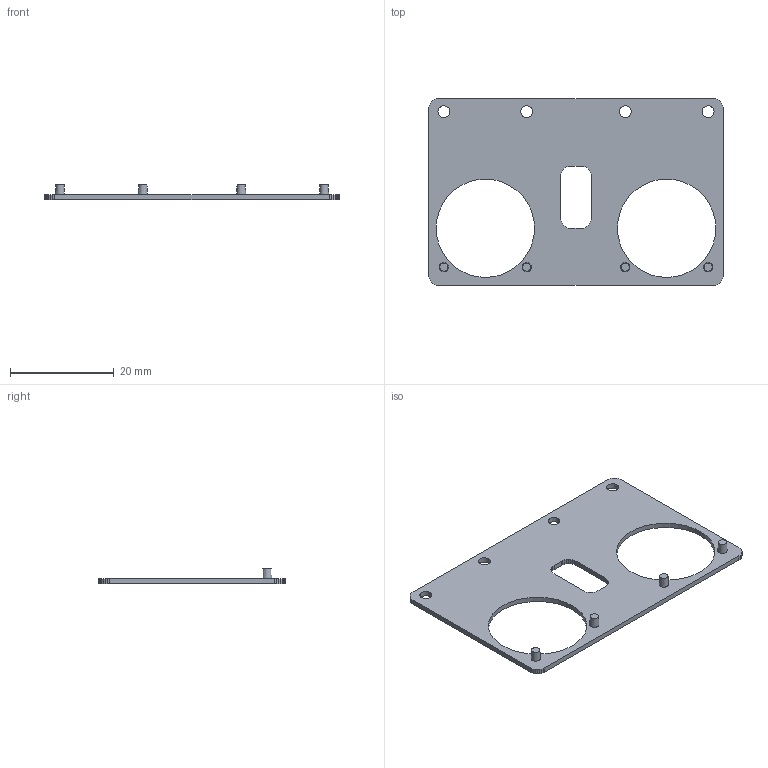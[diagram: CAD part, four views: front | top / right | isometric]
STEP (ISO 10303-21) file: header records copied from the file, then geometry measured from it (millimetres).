
FILE_DESCRIPTION(('FreeCAD Model'),'2;1');
FILE_NAME('Open CASCADE Shape Model','2026-09-09T20:58:31',('Author'),( ''),'Open CASCADE STEP processor 7.8','FreeCAD','Unknown');
FILE_SCHEMA(('AUTOMOTIVE_DESIGN { 1 0 10303 214 1 1 1 1 }'));
Length unit declared in the file: millimetre
Products named in the file (1): microduck-trunk-base
Bounding box: 57 x 36 x 3 mm (x, y, z)
Volume: 1414.4 mm3; surface area: 3196.4 mm2
Topology: 1 solids, 1 shells, 88 faces, 246 edges, 164 vertices
Faces by surface type: plane 78, cylinder 6, cone 4
Full cylindrical faces by diameter (mm): 2.3 x4, 19 x2
Entity records: 2828 total; most frequent: CARTESIAN_POINT 499, ORIENTED_EDGE 492, DIRECTION 444, EDGE_CURVE 246, LINE 226, VECTOR 226, VERTEX_POINT 164, AXIS2_PLACEMENT_3D 109
